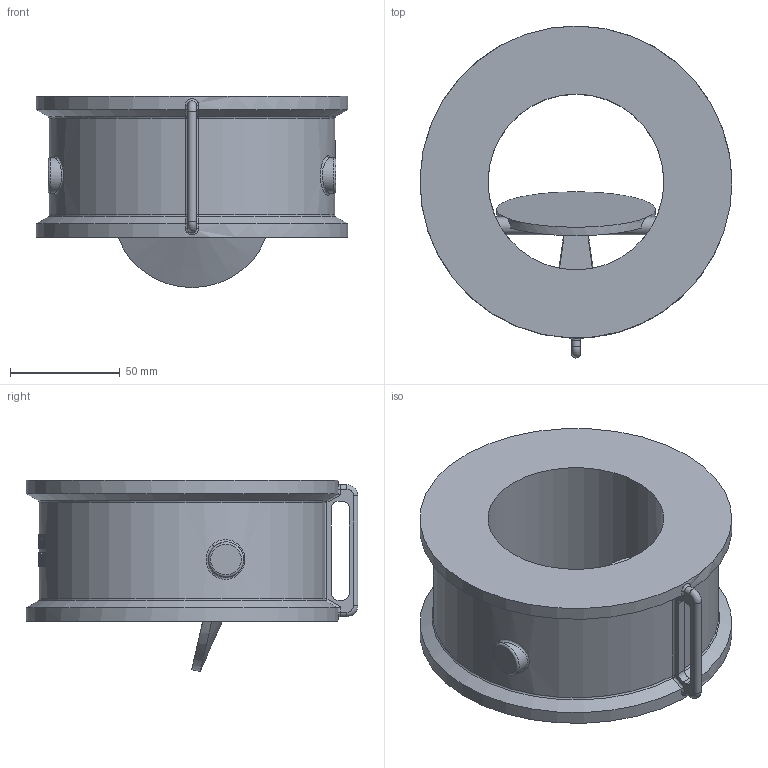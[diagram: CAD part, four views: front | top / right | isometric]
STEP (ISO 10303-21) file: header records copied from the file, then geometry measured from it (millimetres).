
FILE_DESCRIPTION( ( 'Unknown' ), '1' );
FILE_NAME( 'C:/Documents and Settings/Klaus/My Documents/Rootsi BPS 3D, Klaus/BPS 6530 tilting disc check valve/STEP/BPS6530080 tilting disc check valve DN80.stp', 'Unknown', ( 'Unknown' ), ( 'Unknown' ), 'PSStep 10.1', 'Unknown', ' ' );
FILE_SCHEMA( ( 'AUTOMOTIVE_DESIGN { 1 0 10303 214 1 1 1 1 }' ) );
Length unit declared in the file: millimetre
Products named in the file (1): 1
Bounding box: 141.98 x 151 x 87 mm (x, y, z)
Volume: 599482.8 mm3; surface area: 78843.3 mm2
Topology: 1 solids, 1 shells, 224 faces, 533 edges, 348 vertices
Faces by surface type: bspline 86, plane 67, cylinder 57, torus 6, cone 4, sphere 4
Full cylindrical faces by diameter (mm): 8 x1, 80 x1, 142 x2
Entity records: 20507 total; most frequent: CARTESIAN_POINT 14636, ORIENTED_EDGE 1012, EDGE_CURVE 506, DIRECTION 438, B_SPLINE_CURVE_WITH_KNOTS 405, VERTEX_POINT 341, EDGE_LOOP 289, FACE_OUTER_BOUND 242
